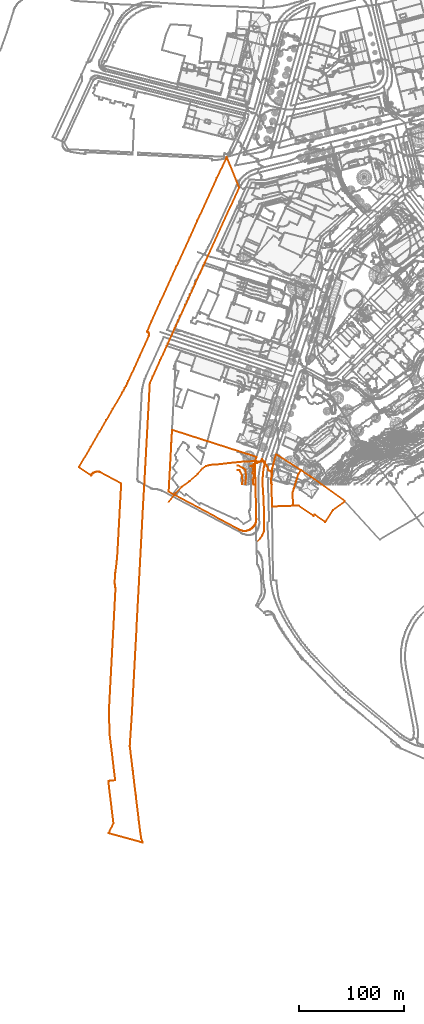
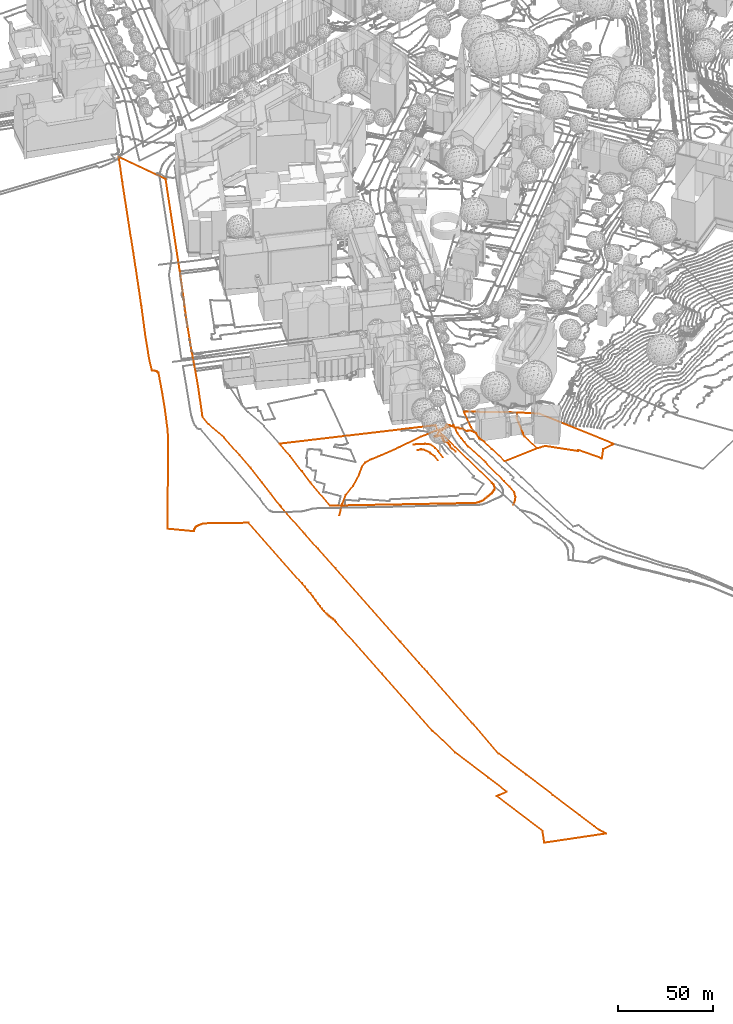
# Not in any storey, part 89 of 494: 9 proxies.
"""IFC2X3 model written with IfcOpenShell, lengths in metres."""

from ifc_helpers import new_model, entity, si_unit, frame, origin_with_axes, place, context, subcontext, project, element, save


model = new_model("IFC2X3")

# Units and contexts
model_context = context("Model", 3, precision=1e-05, world=origin_with_axes())
body_context = subcontext(model_context, "Body", "Model", "MODEL_VIEW")
ifc_project = project(units=[si_unit("AREAUNIT", "SQUARE_METRE"), si_unit("LENGTHUNIT", "METRE")], contexts=[model_context])

# Proxies
proxy_1_placement = place(None, frame((-66.2382679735, -18.0902562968, 525.193), z_axis=(0.0, 0.0, 1.0), x_axis=(1.0, 0.0, 0.0)))
element("IfcBuildingElementProxy", 1, at=proxy_1_placement, Name="Road 150", ObjectType="NOTDEFINED", context=body_context, shape_type="GeometricCurveSet", body=[
    entity("IfcGeometricCurveSet", [entity("IfcPolyline", [entity("IfcCartesianPoint", [0.0, 0.0, 0.0]), entity("IfcCartesianPoint", [6.6190000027, 8.4589997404, -0.045]), entity("IfcCartesianPoint", [12.1870000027, 14.2589995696, 0.346]), entity("IfcCartesianPoint", [19.8419999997, 19.826999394, 0.284]), entity("IfcCartesianPoint", [27.4990000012, 26.5549991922, 0.706]), entity("IfcCartesianPoint", [32.3709999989, 32.1219990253, 0.89]), entity("IfcCartesianPoint", [35.6750000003, 34.3719989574, 0.965]), entity("IfcCartesianPoint", [39.5620000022, 35.370998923, 0.911]), entity("IfcCartesianPoint", [46.5219999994, 35.8349989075, 1.02]), entity("IfcCartesianPoint", [58.355, 37.2269988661, 1.269]), entity("IfcCartesianPoint", [72.041999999, 38.6189988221, 2.288]), entity("IfcCartesianPoint", [80.8590000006, 38.8509988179, 2.693]), entity("IfcCartesianPoint", [91.8810000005, 38.5539988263, 2.688])])]),
])
proxy_2_placement = place(None, frame((18.3007320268, -54.8682551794, 524.812), z_axis=(0.0, 0.0, 1.0), x_axis=(1.0, 0.0, 0.0)))
element("IfcBuildingElementProxy", 2, at=proxy_2_placement, Name="Road 151", ObjectType="NOTDEFINED", context=body_context, shape_type="GeometricCurveSet", body=[
    entity("IfcGeometricCurveSet", [entity("IfcPolyline", [entity("IfcCartesianPoint", [0.0, 0.0, 0.0]), entity("IfcCartesianPoint", [2.3500000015, 2.3489999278, 0.129]), entity("IfcCartesianPoint", [4.4050000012, 5.1389998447, 0.312]), entity("IfcCartesianPoint", [6.1669999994, 9.3979997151, 0.46]), entity("IfcCartesianPoint", [6.4609999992, 14.8319995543, 0.59]), entity("IfcCartesianPoint", [6.313000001, 20.2639993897, 0.86]), entity("IfcCartesianPoint", [5.8729999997, 39.3539988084, 1.649]), entity("IfcCartesianPoint", [4.6979999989, 55.6539983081, 2.292]), entity("IfcCartesianPoint", [4.9550000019, 59.9149981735, 2.521]), entity("IfcCartesianPoint", [5.307, 63.79799806, 2.66]), entity("IfcCartesianPoint", [5.7259999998, 68.4289979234, 2.826]), entity("IfcCartesianPoint", [7.3420000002, 75.3319977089, 3.069])])]),
])
proxy_3_placement = place(None, frame((-151.4392679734, 15.1087160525, 526.5745130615), z_axis=(0.0, 0.0, 1.0), x_axis=(1.0, 0.0, 0.0)))
element("IfcBuildingElementProxy", 3, at=proxy_3_placement, Name="Cadastre 79", ObjectType="NOTDEFINED", context=body_context, shape_type="GeometricCurveSet", body=[
    entity("IfcGeometricCurveSet", [entity("IfcPolyline", [entity("IfcCartesianPoint", [0.0, 0.0, 0.0]), entity("IfcCartesianPoint", [11.2420000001, 19.2179999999, 1.8378331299]), entity("IfcCartesianPoint", [19.8540000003, 34.0459999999, 2.238164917]), entity("IfcCartesianPoint", [25.9750000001, 44.564, 2.198105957]), entity("IfcCartesianPoint", [32.1070000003, 55.112, 2.2129320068]), entity("IfcCartesianPoint", [41.2490000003, 70.8489999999, 0.0601470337]), entity("IfcCartesianPoint", [42.4730000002, 72.9679999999, -0.5668779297]), entity("IfcCartesianPoint", [43.6510000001, 75.112, -0.615623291]), entity("IfcCartesianPoint", [44.784, 77.28, -0.6783294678]), entity("IfcCartesianPoint", [45.8700000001, 79.4719999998, -0.3021656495]), entity("IfcCartesianPoint", [46.9100000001, 81.6869999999, 0.2162202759]), entity("IfcCartesianPoint", [52.4810000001, 93.885, 2.7616265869]), entity("IfcCartesianPoint", [57.5520000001, 104.976, 2.7704937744]), entity("IfcCartesianPoint", [66.3940000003, 124.3810000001, 1.2715860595]), entity("IfcCartesianPoint", [66.5690000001, 124.8699999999, 1.2168814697]), entity("IfcCartesianPoint", [66.6720000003, 125.379, 1.1602154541]), entity("IfcCartesianPoint", [66.7010000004, 125.898, 1.1026617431]), entity("IfcCartesianPoint", [66.6540000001, 126.416, 1.0453415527]), entity("IfcCartesianPoint", [66.534, 126.9209999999, 0.9949597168]), entity("IfcCartesianPoint", [66.335, 127.3999999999, 0.9492933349]), entity("IfcCartesianPoint", [66.0690000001, 127.845, 0.9194085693]), entity("IfcCartesianPoint", [65.7430000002, 128.247, 0.8988963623]), entity("IfcCartesianPoint", [65.3620000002, 128.598, 0.881133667]), entity("IfcCartesianPoint", [64.9340000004, 128.8909999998, 0.8673814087]), entity("IfcCartesianPoint", [69.0250000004, 138.943, 0.9522406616]), entity("IfcCartesianPoint", [77.3760000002, 157.1979999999, 1.2580904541]), entity("IfcCartesianPoint", [86.9480000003, 178.122, 4.8549669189]), entity("IfcCartesianPoint", [92.5460000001, 190.365, 5.8879879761]), entity("IfcCartesianPoint", [105.3420000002, 218.3499999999, 8.021800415]), entity("IfcCartesianPoint", [112.5600000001, 234.1339999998, 8.4576126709]), entity("IfcCartesianPoint", [131.0440000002, 274.5619999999, 10.465953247]), entity("IfcCartesianPoint", [140.5520000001, 294.736, 11.0744136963]), entity("IfcCartesianPoint", [152.3080000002, 265.7859999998, 10.3141712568]), entity("IfcCartesianPoint", [119.4990000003, 194.014, 5.9881429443]), entity("IfcCartesianPoint", [110.2800000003, 173.8659999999, 3.6375777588]), entity("IfcCartesianPoint", [105.699, 163.8540000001, 0.9906082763]), entity("IfcCartesianPoint", [101.128, 153.861, 0.8605761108]), entity("IfcCartesianPoint", [96.3470000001, 143.409, 0.9385133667]), entity("IfcCartesianPoint", [90.926, 131.5559999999, 0.8489379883]), entity("IfcCartesianPoint", [83.4350000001, 115.0819999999, 2.3084556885]), entity("IfcCartesianPoint", [77.2940000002, 101.629, 2.7609389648]), entity("IfcCartesianPoint", [70.2320000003, 86.166, 1.2027474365]), entity("IfcCartesianPoint", [67.4620000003, 80.094, -0.1515369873]), entity("IfcCartesianPoint", [67.0810000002, 73.1850000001, -0.5702023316]), entity("IfcCartesianPoint", [66.0900000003, 54.9269999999, 2.2207231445]), entity("IfcCartesianPoint", [65.0989999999, 36.639, 2.226826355]), entity("IfcCartesianPoint", [64.4180000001, 24.1599999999, 2.0154377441]), entity("IfcCartesianPoint", [63.6770000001, 10.591, 0.9102993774]), entity("IfcCartesianPoint", [63.1370000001, 0.612, 0.1743638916]), entity("IfcCartesianPoint", [62.5360000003, -10.2860000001, -0.8857200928]), entity("IfcCartesianPoint", [62.4960000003, -11.1060000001, -0.891859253]), entity("IfcCartesianPoint", [60.8740000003, -38.9030000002, -0.8740125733]), entity("IfcCartesianPoint", [60.0730000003, -54.4620000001, -0.8740125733]), entity("IfcCartesianPoint", [59.0320000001, -74.51, -0.8740125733]), entity("IfcCartesianPoint", [54.9330000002, -149.9210000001, -0.8740125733]), entity("IfcCartesianPoint", [55.0330000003, -149.926, -0.8740125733]), entity("IfcCartesianPoint", [53.8149999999, -171.9790000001, -0.8740125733]), entity("IfcCartesianPoint", [53.3310000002, -180.879, -0.8740125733]), entity("IfcCartesianPoint", [50.4410000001, -233.993, -0.8740125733]), entity("IfcCartesianPoint", [48.409, -264.7490000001, -0.8740125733]), entity("IfcCartesianPoint", [51.3280000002, -288.7879999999, -0.8740125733]), entity("IfcCartesianPoint", [54.1570000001, -312.0160000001, -0.8740125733]), entity("IfcCartesianPoint", [56.986, -335.304, -0.8740125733]), entity("IfcCartesianPoint", [58.5250000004, -347.7830000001, -0.8740125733]), entity("IfcCartesianPoint", [59.2949999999, -352.3419999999, -0.8740125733]), entity("IfcCartesianPoint", [60.764, -356.7410000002, -0.8740125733]), entity("IfcCartesianPoint", [28.3230000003, -347.76, -0.8740125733]), entity("IfcCartesianPoint", [32.8930000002, -337.9510000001, -0.8740125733]), entity("IfcCartesianPoint", [28.0410000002, -298.1360000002, -0.8740125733]), entity("IfcCartesianPoint", [29.6159999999, -297.9440000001, -0.8740125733]), entity("IfcCartesianPoint", [34.5860000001, -297.3840000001, -0.8740125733]), entity("IfcCartesianPoint", [32.6170000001, -281.0860000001, -0.8740125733]), entity("IfcCartesianPoint", [29.1580000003, -252.5280000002, -0.8740125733]), entity("IfcCartesianPoint", [28.6890000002, -229.5900000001, -0.8740125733]), entity("IfcCartesianPoint", [31.8829999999, -170.5660000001, -0.8740125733]), entity("IfcCartesianPoint", [34.747, -117.4010000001, -0.8740125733]), entity("IfcCartesianPoint", [34.7779999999, -116.199, -0.8740125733]), entity("IfcCartesianPoint", [34.736, -114.997, -0.8740125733]), entity("IfcCartesianPoint", [34.622, -113.8, -0.8740125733]), entity("IfcCartesianPoint", [34.4369999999, -112.612, -0.8740125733]), entity("IfcCartesianPoint", [34.2620000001, -111.531, -0.8740125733]), entity("IfcCartesianPoint", [34.1470000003, -110.4410000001, -0.8740125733]), entity("IfcCartesianPoint", [34.0920000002, -109.3470000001, -0.8740125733]), entity("IfcCartesianPoint", [34.0970000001, -108.2520000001, -0.8740125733]), entity("IfcCartesianPoint", [34.2140000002, -105.686, -0.8740125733]), entity("IfcCartesianPoint", [34.3970000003, -103.1230000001, -0.8740125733]), entity("IfcCartesianPoint", [34.645, -100.5590000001, -0.8740125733]), entity("IfcCartesianPoint", [34.9580000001, -98.003, -0.8740125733]), entity("IfcCartesianPoint", [35.3940000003, -94.632, -0.8740125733]), entity("IfcCartesianPoint", [35.784, -91.2560000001, -0.8740125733]), entity("IfcCartesianPoint", [36.1290000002, -87.8740000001, -0.8740125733]), entity("IfcCartesianPoint", [36.429, -84.4850000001, -0.8740125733]), entity("IfcCartesianPoint", [36.682, -81.0919999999, -0.8740125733]), entity("IfcCartesianPoint", [36.889, -77.696, -0.8740125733]), entity("IfcCartesianPoint", [40.253, -15.452, -0.8740125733]), entity("IfcCartesianPoint", [20.415, -4.8030000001, -0.769428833]), entity("IfcCartesianPoint", [19.7170000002, -4.55, -0.7647962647]), entity("IfcCartesianPoint", [18.9960000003, -4.371, -0.7611260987]), entity("IfcCartesianPoint", [18.2600000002, -4.27, -0.7586849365]), entity("IfcCartesianPoint", [17.5180000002, -4.247, -0.7581290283]), entity("IfcCartesianPoint", [16.7770000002, -4.3030000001, -0.759482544]), entity("IfcCartesianPoint", [16.0460000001, -4.4370000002, -0.7627213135]), entity("IfcCartesianPoint", [15.3340000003, -4.6470000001, -0.7665723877]), entity("IfcCartesianPoint", [14.6529999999, -4.929, -0.7717359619]), entity("IfcCartesianPoint", [14.0040000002, -5.281, -0.7781812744]), entity("IfcCartesianPoint", [13.3970000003, -5.7, -0.7933532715]), entity("IfcCartesianPoint", [12.8370000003, -6.1800000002, -0.8158825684]), entity("IfcCartesianPoint", [12.3300000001, -6.716, -0.836560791]), entity("IfcCartesianPoint", [11.8829999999, -7.3020000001, -0.8546229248]), entity("IfcCartesianPoint", [11.4990000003, -7.932, -0.8570660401]), entity("IfcCartesianPoint", [0.0, 0.0, 0.0])])]),
])
proxy_4_placement = place(None, frame((-66.0912679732, -8.2502839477, 525.7005004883), z_axis=(0.0, 0.0, 1.0), x_axis=(1.0, 0.0, 0.0)))
element("IfcBuildingElementProxy", 4, at=proxy_4_placement, Name="Cadastre 81", ObjectType="NOTDEFINED", context=body_context, shape_type="GeometricCurveSet", body=[
    entity("IfcGeometricCurveSet", [entity("IfcPolyline", [entity("IfcCartesianPoint", [0.0, 0.0, 0.0]), entity("IfcCartesianPoint", [1.2409999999, 22.6880000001, 0.6721157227]), entity("IfcCartesianPoint", [1.7820000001, 32.6660000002, 1.6397720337]), entity("IfcCartesianPoint", [2.523, 46.2550000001, 2.8576787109]), entity("IfcCartesianPoint", [3.213, 58.7540000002, 3.0991626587]), entity("IfcCartesianPoint", [83.3489999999, 33.0110000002, 2.5261064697]), entity("IfcCartesianPoint", [81.9789999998, 28.8800000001, 2.3993199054]), entity("IfcCartesianPoint", [83.287, -25.8579999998, 1.4844741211]), entity("IfcCartesianPoint", [83.2760000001, -26.6309999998, 1.4848984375]), entity("IfcCartesianPoint", [83.2110000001, -27.4009999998, 1.4910874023]), entity("IfcCartesianPoint", [83.0919999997, -28.1649999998, 1.5032314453]), entity("IfcCartesianPoint", [82.9199999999, -28.9179999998, 1.5207841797]), entity("IfcCartesianPoint", [82.696, -29.6579999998, 1.5436435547]), entity("IfcCartesianPoint", [82.4270000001, -30.379, 1.5710952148]), entity("IfcCartesianPoint", [82.1089999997, -31.0799999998, 1.6375219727]), entity("IfcCartesianPoint", [81.7429999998, -31.7579999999, 1.7525894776]), entity("IfcCartesianPoint", [81.3319999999, -32.4079999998, 1.8818046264]), entity("IfcCartesianPoint", [80.8759999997, -33.0289999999, 2.0237521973]), entity("IfcCartesianPoint", [80.3759999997, -33.6169999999, 2.1791477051]), entity("IfcCartesianPoint", [79.8360000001, -34.1679999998, 2.3280258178]), entity("IfcCartesianPoint", [79.2590000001, -34.6809999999, 2.4796447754]), entity("IfcCartesianPoint", [78.648, -35.152, 2.4926971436]), entity("IfcCartesianPoint", [78.0060000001, -35.5799999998, 2.5029284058]), entity("IfcCartesianPoint", [77.3319999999, -35.9559999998, 2.5083997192]), entity("IfcCartesianPoint", [76.6329999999, -36.284, 2.4685400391]), entity("IfcCartesianPoint", [75.9139999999, -36.5629999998, 2.3950143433]), entity("IfcCartesianPoint", [75.176, -36.7919999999, 2.2792191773]), entity("IfcCartesianPoint", [74.4249999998, -36.9689999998, 2.0839060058]), entity("IfcCartesianPoint", [73.6639999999, -37.102, 1.7715206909]), entity("IfcCartesianPoint", [72.8959999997, -37.1809999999, 1.4809986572]), entity("IfcCartesianPoint", [72.125, -37.2069999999, 1.2279809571]), entity("IfcCartesianPoint", [71.3530000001, -37.1789999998, 0.8903723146]), entity("IfcCartesianPoint", [70.585, -37.098, 0.6476945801]), entity("IfcCartesianPoint", [69.8289999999, -36.96, 0.4431420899]), entity("IfcCartesianPoint", [69.085, -36.7699999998, 0.2735830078]), entity("IfcCartesianPoint", [68.355, -36.5289999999, 0.1533272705]), entity("IfcCartesianPoint", [67.6439999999, -36.2379999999, 0.0872421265]), entity("IfcCartesianPoint", [66.9550000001, -35.8979999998, 0.0373287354]), entity("IfcCartesianPoint", [0.0, 0.0, 0.0])])]),
])
proxy_5_placement = place(None, frame((31.2187320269, 3.6207160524, 528.427509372), z_axis=(0.0, 0.0, 1.0), x_axis=(1.0, 0.0, 0.0)))
element("IfcBuildingElementProxy", 5, at=proxy_5_placement, Name="Cadastre 91", ObjectType="NOTDEFINED", context=body_context, shape_type="GeometricCurveSet", body=[
    entity("IfcGeometricCurveSet", [entity("IfcPolyline", [entity("IfcCartesianPoint", [0.0, 0.0, 0.0]), entity("IfcCartesianPoint", [1.1499999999, 10.2410000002, 0.0194641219]), entity("IfcCartesianPoint", [4.6209999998, 23.689, 0.4923029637]), entity("IfcCartesianPoint", [28.2989999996, 8.5250000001, 0.8708104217]), entity("IfcCartesianPoint", [28.0289999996, 8.1040000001, 0.8476762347]), entity("IfcCartesianPoint", [25.5989999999, 4.314, 0.7479513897]), entity("IfcCartesianPoint", [24.52, 0.754, 0.8054086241]), entity("IfcCartesianPoint", [21.4779999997, -9.2819999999, 0.7622332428]), entity("IfcCartesianPoint", [20.4380000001, -12.709, 0.839346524]), entity("IfcCartesianPoint", [20.8969999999, -25.1309999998, 0.8077734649]), entity("IfcCartesianPoint", [0.838, -25.8739999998, -0.0870900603]), entity("IfcCartesianPoint", [0.6289999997, -12.372, -0.2295784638]), entity("IfcCartesianPoint", [0.0, 0.0, 0.0])])]),
])
proxy_6_placement = place(None, frame((51.656732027, -9.0882839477, 529.266855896), z_axis=(0.0, 0.0, 1.0), x_axis=(1.0, 0.0, 0.0)))
element("IfcBuildingElementProxy", 6, at=proxy_6_placement, Name="Cadastre 92", ObjectType="NOTDEFINED", context=body_context, shape_type="GeometricCurveSet", body=[
    entity("IfcGeometricCurveSet", [entity("IfcPolyline", [entity("IfcCartesianPoint", [0.0, 0.0, 0.0]), entity("IfcCartesianPoint", [1.0399999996, 3.4270000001, -0.0771132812]), entity("IfcCartesianPoint", [4.0819999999, 13.463, -0.0339378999]), entity("IfcCartesianPoint", [5.1609999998, 17.023, -0.0913951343]), entity("IfcCartesianPoint", [7.5909999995, 20.8130000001, 0.0083297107]), entity("IfcCartesianPoint", [7.8609999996, 21.2340000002, 0.0314638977]), entity("IfcCartesianPoint", [17.659, 14.9550000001, -0.3921652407]), entity("IfcCartesianPoint", [49.6029999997, -8.162, -16.9854249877]), entity("IfcCartesianPoint", [38.5039999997, -16.325, -11.5097008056]), entity("IfcCartesianPoint", [31.0039999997, -27.7279999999, -7.9264710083]), entity("IfcCartesianPoint", [20.6659999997, -20.7899999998, -3.0986784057]), entity("IfcCartesianPoint", [19.8259999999, -22.0399999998, -2.7712196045]), entity("IfcCartesianPoint", [5.4589999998, -12.2409999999, -0.4036690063]), entity("IfcCartesianPoint", [0.4589999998, -12.4219999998, -0.0315730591]), entity("IfcCartesianPoint", [0.0, 0.0, 0.0])])]),
])
proxy_7_placement = place(None, frame((-0.8222679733, 12.4719852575, 526.0), z_axis=(0.0, 0.0, 1.0), x_axis=(1.0, 0.0, 0.0)))
element("IfcBuildingElementProxy", 7, at=proxy_7_placement, Name="Contour Line 526.0 m", ObjectType="NOTDEFINED", context=body_context, shape_type="GeometricCurveSet", body=[
    entity("IfcGeometricCurveSet", [entity("IfcPolyline", [entity("IfcCartesianPoint", [4.4733234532, -13.8012692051, 0.0]), entity("IfcCartesianPoint", [4.9048223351, -9.3012692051, 0.0]), entity("IfcCartesianPoint", [4.3181818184, -6.3012692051, 0.0]), entity("IfcCartesianPoint", [4.5437956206, -5.3012692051, 0.0]), entity("IfcCartesianPoint", [2.7884758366, -1.3012692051, 0.0]), entity("IfcCartesianPoint", [1.997442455, -0.3012692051, 0.0]), entity("IfcCartesianPoint", [0.0, 0.0, 0.0])])]),
])
proxy_8_placement = place(None, frame((-0.8222679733, 16.6238503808, 527.0), z_axis=(0.0, 0.0, 1.0), x_axis=(1.0, 0.0, 0.0)))
element("IfcBuildingElementProxy", 8, at=proxy_8_placement, Name="Contour Line 527.0 m", ObjectType="NOTDEFINED", context=body_context, shape_type="GeometricCurveSet", body=[
    entity("IfcGeometricCurveSet", [entity("IfcPolyline", [entity("IfcCartesianPoint", [7.5281917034, -17.9531343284, 0.0]), entity("IfcCartesianPoint", [8.188956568, -11.4531343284, 0.0]), entity("IfcCartesianPoint", [8.1604967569, -8.4531343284, 0.0]), entity("IfcCartesianPoint", [7.6752066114, -4.4531343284, 0.0]), entity("IfcCartesianPoint", [7.0486513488, -3.4531343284, 0.0]), entity("IfcCartesianPoint", [5.5, -2.309138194, 0.0]), entity("IfcCartesianPoint", [0.5, 0.0, 0.0]), entity("IfcCartesianPoint", [0.0, 0.0, 0.0])])]),
])
proxy_9_placement = place(None, frame((11.6248310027, 16.1707160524, 528.0), z_axis=(0.0, 0.0, 1.0), x_axis=(1.0, 0.0, 0.0)))
element("IfcBuildingElementProxy", 9, at=proxy_9_placement, Name="Contour Line 528.0 m", ObjectType="NOTDEFINED", context=body_context, shape_type="GeometricCurveSet", body=[
    entity("IfcGeometricCurveSet", [entity("IfcPolyline", [entity("IfcCartesianPoint", [20.4325787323, -17.5, 0.0]), entity("IfcCartesianPoint", [19.5379944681, -13.0, 0.0]), entity("IfcCartesianPoint", [20.6613569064, -8.0, 0.0]), entity("IfcCartesianPoint", [19.052901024, -4.6603174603, 0.0]), entity("IfcCartesianPoint", [18.052901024, -4.1434782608, 0.0]), entity("IfcCartesianPoint", [17.052901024, -4.0781456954, 0.0]), entity("IfcCartesianPoint", [16.3117245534, -1.0, 0.0]), entity("IfcCartesianPoint", [15.2613952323, 0.0, 0.0]), entity("IfcCartesianPoint", [15.2346393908, 1.0, 0.0]), entity("IfcCartesianPoint", [13.3659158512, 2.0, 0.0]), entity("IfcCartesianPoint", [12.052901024, 5.135857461, 0.0]), entity("IfcCartesianPoint", [11.052901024, 6.7123519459, 0.0]), entity("IfcCartesianPoint", [9.052901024, 4.468108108, 0.0]), entity("IfcCartesianPoint", [8.052901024, 3.7435197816, 0.0]), entity("IfcCartesianPoint", [6.052901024, 2.9543859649, 0.0]), entity("IfcCartesianPoint", [5.052901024, 3.3223599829, 0.0]), entity("IfcCartesianPoint", [3.1524860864, 2.0, 0.0]), entity("IfcCartesianPoint", [2.052901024, 0.6591304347, 0.0]), entity("IfcCartesianPoint", [1.052901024, 0.6591422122, 0.0]), entity("IfcCartesianPoint", [0.0, 0.0, 0.0]), entity("IfcCartesianPoint", [1.052901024, -0.4010989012, 0.0]), entity("IfcCartesianPoint", [3.052901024, -0.3766011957, 0.0]), entity("IfcCartesianPoint", [4.1654896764, -2.0, 0.0]), entity("IfcCartesianPoint", [2.6633262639, -3.0, 0.0]), entity("IfcCartesianPoint", [3.0075401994, -4.0, 0.0]), entity("IfcCartesianPoint", [2.3470186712, -5.0, 0.0]), entity("IfcCartesianPoint", [2.1123604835, -6.0, 0.0]), entity("IfcCartesianPoint", [2.0546177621, -7.0, 0.0]), entity("IfcCartesianPoint", [3.358542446, -8.0, 0.0]), entity("IfcCartesianPoint", [3.3969451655, -9.0, 0.0]), entity("IfcCartesianPoint", [3.0196702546, -10.0, 0.0]), entity("IfcCartesianPoint", [3.1239831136, -11.0, 0.0]), entity("IfcCartesianPoint", [2.1331654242, -13.0, 0.0]), entity("IfcCartesianPoint", [2.5464732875, -14.0, 0.0]), entity("IfcCartesianPoint", [2.7267295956, -17.5, 0.0])])]),
])

save(model, "model.ifc")
